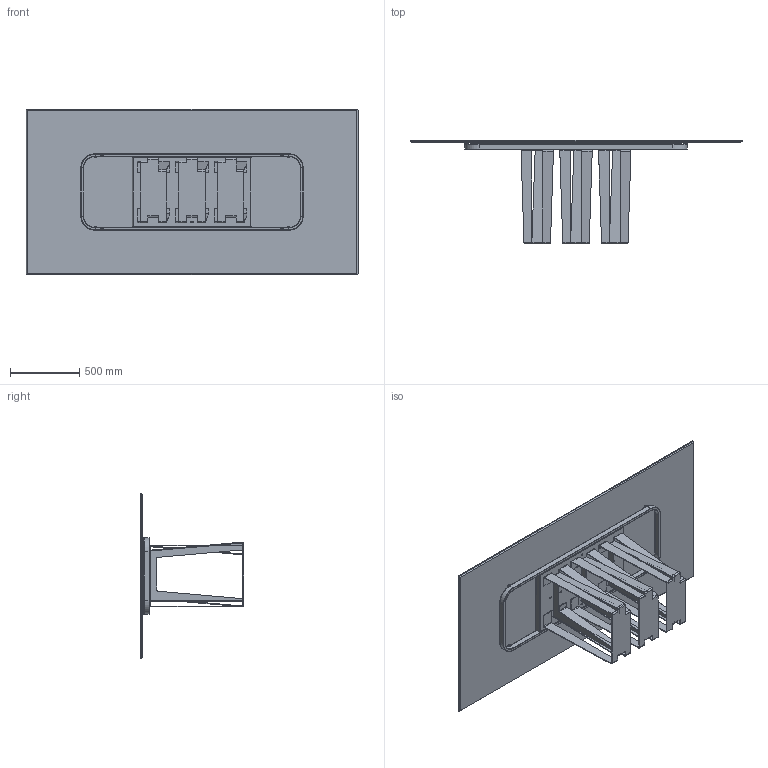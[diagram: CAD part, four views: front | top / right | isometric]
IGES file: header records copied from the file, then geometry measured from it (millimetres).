
Start section: SolidWorks IGES file using analytic representation for surfaces
Global section: file name: Y:\eforma\TECNICO\SOLIDWORKS\E-FORMA\1-TAVOLI\NARCISO\02 parts\NA22C.IGS; native system: SolidWorks 2022; preprocessor: SolidWorks 2022; author: eforma.tech; date: 240807.164301; units: millimetre
Bounding box: 2390 x 746 x 1190 mm (x, y, z)
Volume: 56871447.1 mm3; surface area: 16365541.2 mm2
Topology: 31 solids, 31 shells, 1005 faces, 2463 edges, 1514 vertices
Faces by surface type: plane 551, revolution 418, bspline 36
